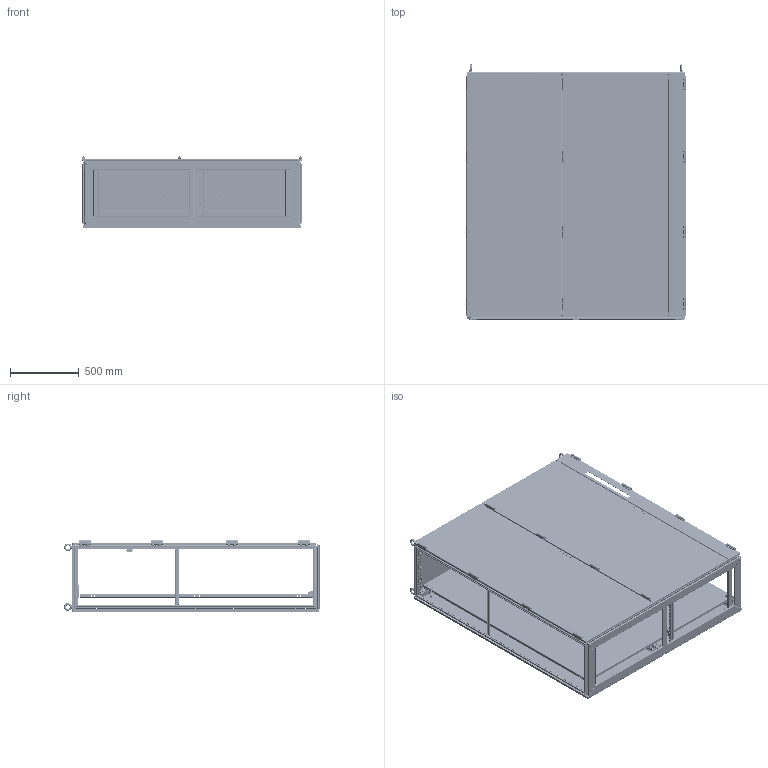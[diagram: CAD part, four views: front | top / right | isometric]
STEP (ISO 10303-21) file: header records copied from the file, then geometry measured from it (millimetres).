
FILE_DESCRIPTION((''),'2;1');
FILE_NAME('9951138_ASM','2015-03-11T',('us01724'),(''),'PRO/ENGINEER BY PARAMETRIC TECHNOLOGY CORPORATION, 2014310','PRO/ENGINEER BY PARAMETRIC TECHNOLOGY CORPORATION, 2014310','');
FILE_SCHEMA(('CONFIG_CONTROL_DESIGN'));
Products named in the file (71): D0038404_AF0; D0038404_AF1; D0242690_AF13; D0242690_AF12; D0038404; D0242690; D0242686; D0241135; D0054890_ASM; D0242686_AF0; D0051551; D0051552; D0054762_ASM; D0241538; D0241473; D0241151; D0208516; D0241463_TS_MPL_SLIDE_BLOCK_L; D0241464_TS_MPL_SLIDE_BLOCK_R; D0241469_TS_MPL_RETAINER_RIGHT; D0241468_TS_MPL_RETAINER_LEFT; D0027206; 211119; D0200620; D8800030_ROTATING_BODY; D8800030_STATIONARY_BODY; D8800030_ASM; D0043312; TS_GASKET_DR_FMDC_LEFT_0818; D0242763_TS8_GROUND_STUD_M8; D0242763_TS8_CAP_M8; D0242763_ASM; D0242679; D0223916; D0025196; D0233330; D0214486; D0028368_ASM; D0241489; D0241496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
Assembly tree (180 placements, depth 4):
  9951138_ASM
    D0054890_ASM
      D0038404_AF0
      D0038404_AF1
      D0242690_AF13
      D0242690_AF12
      D0038404  x2
      D0242690  x2
      D0242686  x4
      D0241135  x8
    D0054762_ASM  x4
      D0242686_AF0
      D0051551
      D0051552
    D0241538  x2
    D0241473  x2
    D0241151  x4
    D0208516  x2
    D0241463_TS_MPL_SLIDE_BLOCK_L
    D0241464_TS_MPL_SLIDE_BLOCK_R
    D0241469_TS_MPL_RETAINER_RIGHT
    D0241468_TS_MPL_RETAINER_LEFT
    D0027206
    211119
    D0200620
    D8800030_ASM  x12
      D8800030_ROTATING_BODY
      D8800030_STATIONARY_BODY
    D0043312_ASM
      D0043312
      TS_GASKET_DR_FMDC_LEFT_0818
      D0242763_ASM  x2
        D0242763_TS8_GROUND_STUD_M8
        D0242763_TS8_CAP_M8
      D0242679  x6
      D0223916  x8
      D0028368_ASM
        D0025196  x2
        D0233330  x2
        D0214486  x4
      TS_LOCKBAR_ASSY_1800_DBL_ASM
        D0241489
        D0241496  x2
        D0042690  x2
        D0030693  x4
    D0054737_ASM
      D0054737
      TS_GASKET_DOOR_FMDC_LEFT_0718
      D0242763_ASM  x2
        D0242763_TS8_GROUND_STUD_M8
        D0242763_TS8_CAP_M8
      D0242679  x6
      D0223916  x6
      D0028368_ASM
        D0025196  x2
        D0233330  x2
        D0214486  x4
      TS_LOCKBAR_ASSY_1800_ASM
        D0241491
        D0241496  x2
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Bounding box: 1598.28 x 1864.45 x 522.82 mm (x, y, z)
Volume: 29531237 mm3; surface area: 30221665.3 mm2
Topology: 213 solids, 245 shells, 35324 faces, 100387 edges, 65114 vertices
Faces by surface type: plane 20448, cylinder 13054, cone 696, torus 588, bspline 300, sphere 142, extrusion 96
Entity records: 425928 total; most frequent: CARTESIAN_POINT 79173, ORIENTED_EDGE 71076, DIRECTION 70245, EDGE_CURVE 35542, VECTOR 25233, LINE 25209, VERTEX_POINT 23169, AXIS2_PLACEMENT_3D 22506
